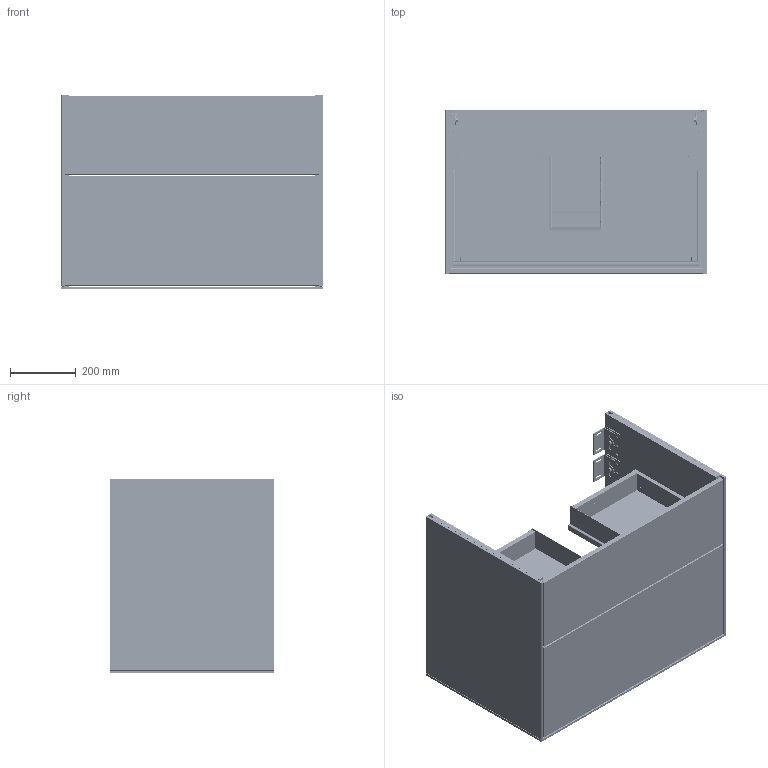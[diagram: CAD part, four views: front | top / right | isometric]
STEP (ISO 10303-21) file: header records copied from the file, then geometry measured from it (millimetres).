
FILE_DESCRIPTION((' '),'2;1');
FILE_NAME('M:\DWG\MÖBEL\3D-Zeichnungen Typen\Finion\STP\Finion_F01000XX_3D.stp','2017-03-23T09:48:02',(' '),(' '),' ','ACIS',' ');
FILE_SCHEMA(('CONFIG_CONTROL_DESIGN'));
Length unit declared in the file: millimetre
Products named in the file (108): M:\DWG\MÖBEL\3D-Zeichnungen Typen\Finion\STP\Finion_F01000XX_3D.stp; Körper1; Körper2; Körper3; Körper4; Körper5; Körper6; Körper7; Körper8; Körper9; Körper10; Körper11; Körper12; Körper13; Körper14; Körper15; Körper16; Körper17; Körper18; Körper19; Körper20; Körper21; Körper22; Körper23; Körper24; Körper25; Körper26; Körper27; Körper28; Körper29; Körper30; Körper31; Körper32; Körper33; Körper34; Körper35; Körper36; Körper37; Körper38; Körper39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
Assembly tree (107 placements, depth 2):
  M:\DWG\MÖBEL\3D-Zeichnungen Typen\Finion\STP\Finion_F01000XX_3D.stp
    Körper1
    Körper2
    Körper3
    Körper4
    Körper5
    Körper6
    Körper7
    Körper8
    Körper9
    Körper10
    Körper11
    Körper12
    Körper13
    Körper14
    Körper15
    Körper16
    Körper17
    Körper18
    Körper19
    Körper20
    Körper21
    Körper22
    Körper23
    Körper24
    Körper25
    Körper26
    Körper27
    Körper28
    Körper29
    Körper30
    Körper31
    Körper32
    Körper33
    Körper34
    Körper35
    Körper36
    Körper37
    Körper38
    Körper39
    Körper40
    Körper41
    Körper42
    Körper43
    Körper44
    Körper45
    Körper46
    Körper47
    Körper48
    Körper49
    Körper50
    Körper51
    Körper52
    Körper53
    Körper54
    Körper55
    Körper56
    Körper57
    Körper58
    Körper59
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Bounding box: 796 x 498 x 591 mm (x, y, z)
Volume: 43868059.8 mm3; surface area: 8312287.7 mm2
Topology: 131 solids, 131 shells, 7420 faces, 19639 edges, 12862 vertices
Faces by surface type: bspline 3223, plane 2476, cylinder 1471, cone 194, sphere 30, torus 26
Full cylindrical faces by diameter (mm): 2.086 x6, 3 x22, 3.5 x2, 4 x6, 5 x2, 6 x4, 7 x2, 8 x10, 8.02 x16, 10 x18, 12 x1, 30 x2
Entity records: 322111 total; most frequent: CARTESIAN_POINT 130999, ORIENTED_EDGE 38412, DIRECTION 32991, EDGE_CURVE 19206, VERTEX_POINT 12773, VECTOR 12537, LINE 12537, AXIS2_PLACEMENT_3D 10227
